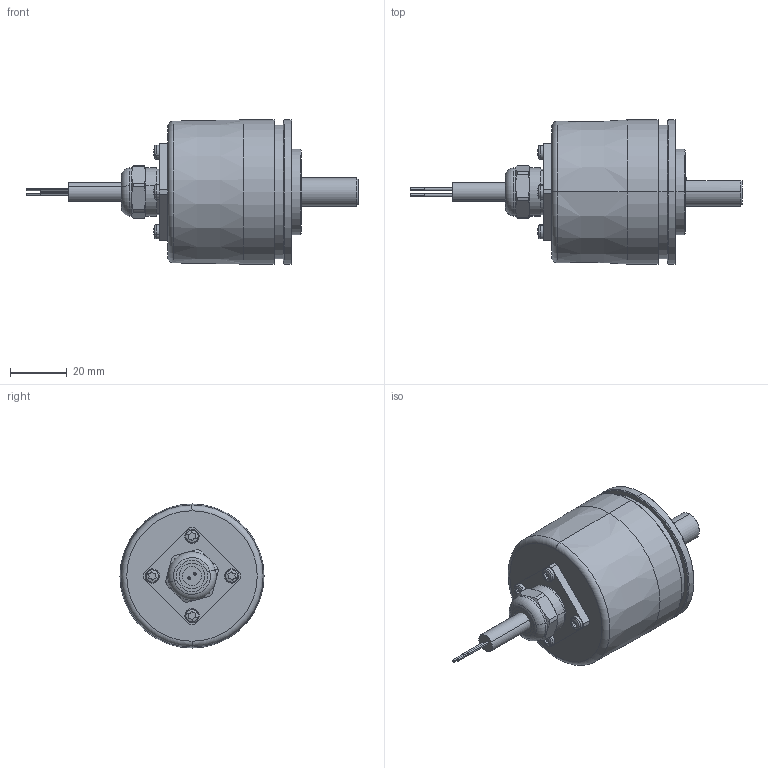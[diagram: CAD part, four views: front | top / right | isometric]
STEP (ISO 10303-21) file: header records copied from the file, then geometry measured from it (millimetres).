
FILE_DESCRIPTION (( 'STEP AP214' ), '1' );
FILE_NAME ('5000.63X1.XXXX.STEP', '2011-01-04T09:57:53', ( 'admin' ), ( 'Fritz Kübler GmbH' ), 'SwSTEP 2.0', 'SolidWorks 2009', '' );
FILE_SCHEMA (( 'AUTOMOTIVE_DESIGN' ));
Length unit declared in the file: millimetre
Products named in the file (1): 5000.63X1.XXXX
Bounding box: 117 x 50.8 x 50.8 mm (x, y, z)
Surface area: 17407.9 mm2 (no closed solid volume)
Topology: 0 solids, 14 shells, 225 faces, 626 edges, 400 vertices
Faces by surface type: plane 86, cylinder 59, cone 32, sphere 28, torus 20
Entity records: 10064 total; most frequent: CARTESIAN_POINT 1984, DIRECTION 1258, ORIENTED_EDGE 1059, EDGE_CURVE 574, AXIS2_PLACEMENT_3D 520, VERTEX_POINT 370, CIRCLE 294, EDGE_LOOP 271
